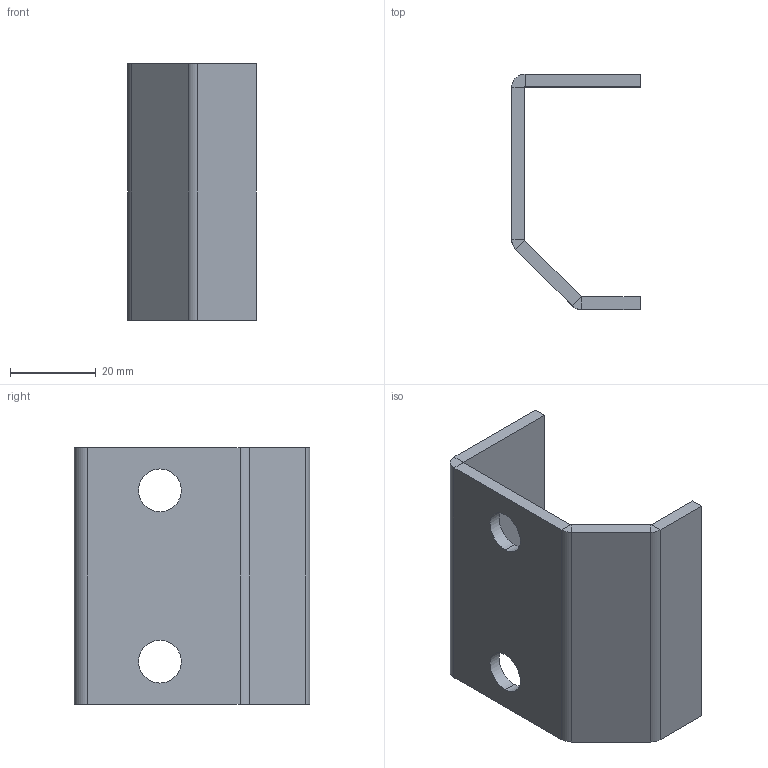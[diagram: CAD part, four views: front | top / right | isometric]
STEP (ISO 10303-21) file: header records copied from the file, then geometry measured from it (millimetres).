
FILE_DESCRIPTION (( 'STEP AP203' ), '1' );
FILE_NAME ('Support capteur Rep. 1.8.STEP', '2018-03-01T14:38:12', ( '' ), ( '' ), 'SwSTEP 2.0', 'SolidWorks 2017', '' );
FILE_SCHEMA (( 'CONFIG_CONTROL_DESIGN' ));
Length unit declared in the file: millimetre
Products named in the file (1): Support capteur Rep. 1.8
Bounding box: 30 x 55 x 60 mm (x, y, z)
Volume: 17511.4 mm3; surface area: 12822.2 mm2
Topology: 1 solids, 1 shells, 34 faces, 72 edges, 40 vertices
Faces by surface type: plane 24, cylinder 10
Entity records: 969 total; most frequent: DIRECTION 162, CARTESIAN_POINT 147, ORIENTED_EDGE 144, EDGE_CURVE 72, AXIS2_PLACEMENT_3D 55, LINE 52, VECTOR 52, VERTEX_POINT 40
